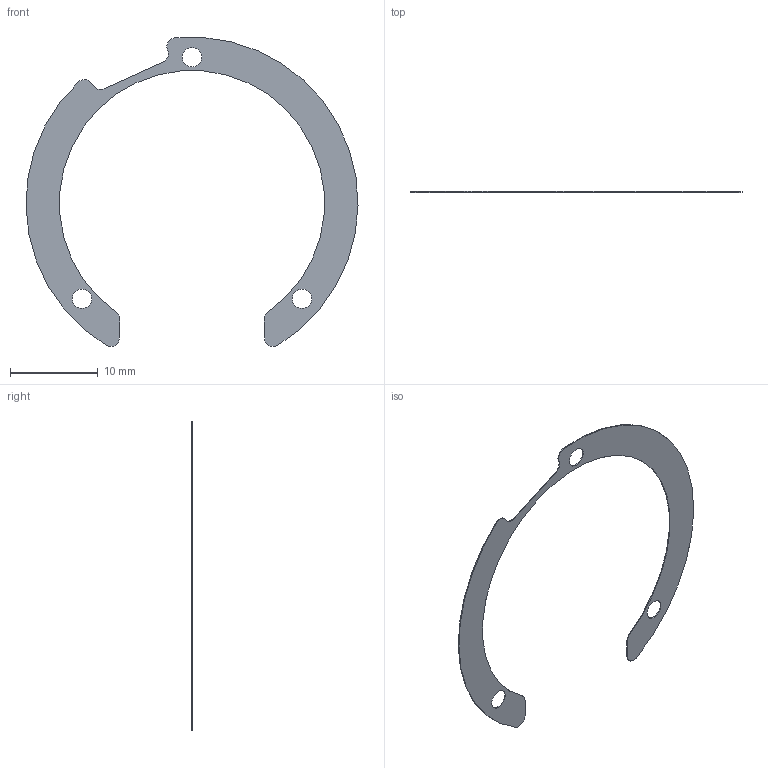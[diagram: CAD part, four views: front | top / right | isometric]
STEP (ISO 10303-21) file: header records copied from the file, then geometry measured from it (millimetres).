
FILE_DESCRIPTION (( 'STEP AP214' ), '1' );
FILE_NAME ('MN02233D04_00.STEP', '2023-08-23T13:59:25', ( '' ), ( '' ), 'SwSTEP 2.0', 'SolidWorks 2022', '' );
FILE_SCHEMA (( 'AUTOMOTIVE_DESIGN' ));
Length unit declared in the file: millimetre
Products named in the file (1): MN02233D04_00
Bounding box: 37.79 x 0.1 x 35.18 mm (x, y, z)
Volume: 30.2 mm3; surface area: 624.3 mm2
Topology: 1 solids, 1 shells, 25 faces, 69 edges, 46 vertices
Faces by surface type: cylinder 20, plane 5
Entity records: 869 total; most frequent: DIRECTION 161, CARTESIAN_POINT 141, ORIENTED_EDGE 138, EDGE_CURVE 69, AXIS2_PLACEMENT_3D 66, VERTEX_POINT 46, CIRCLE 40, EDGE_LOOP 31
